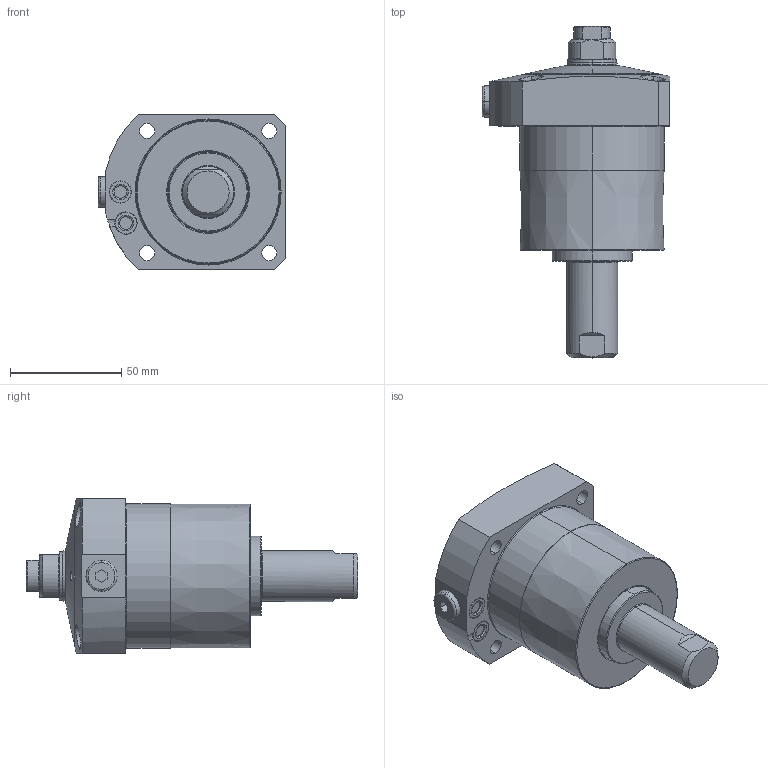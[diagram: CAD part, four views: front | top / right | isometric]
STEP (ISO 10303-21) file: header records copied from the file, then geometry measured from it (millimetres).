
FILE_DESCRIPTION(/* description */ (''),/* implementation_level */ '2;1');
FILE_NAME(/* name */ 'KFSC65-Q.stp',/* time_stamp */ '2026-02-04T15:34:40+08:00',/* author */ (''),/* organization */ (''),/* preprocessor_version */ 'ST-DEVELOPER v16.7',/* originating_system */ 'SIEMENS PLM Software NX 12.0',/* authorisation */ '');
FILE_SCHEMA (('AUTOMOTIVE_DESIGN { 1 0 10303 214 3 1 1 1 }'));
Length unit declared in the file: millimetre
Products named in the file (8): XLC-M12_contactbolt5858; XLC-M12_o-ring3204; KFSC65-Q-02; KFSC65-Q-04; KFSC65-Q-01; P7-1; KFSC65-Q-03; LC0653-C-Q_step
Assembly tree (8 placements, depth 3):
  LC0653-C-Q_step
    P7-1  x2
    KFSC65-Q-01
    KFSC65-Q-04
    KFSC65-Q-02
    KFSC65-Q-03
      XLC-M12_o-ring3204
      XLC-M12_contactbolt5858
Bounding box: 84.5 x 149.5 x 70 mm (x, y, z)
Volume: 335244.2 mm3; surface area: 42577.3 mm2
Topology: 7 solids, 7 shells, 243 faces, 533 edges, 323 vertices
Faces by surface type: cylinder 77, torus 62, plane 59, cone 43, sphere 2
Entity records: 6978 total; most frequent: CARTESIAN_POINT 1475, DIRECTION 1226, ORIENTED_EDGE 1010, AXIS2_PLACEMENT_3D 530, EDGE_CURVE 505, VERTEX_POINT 309, CIRCLE 290, EDGE_LOOP 266
